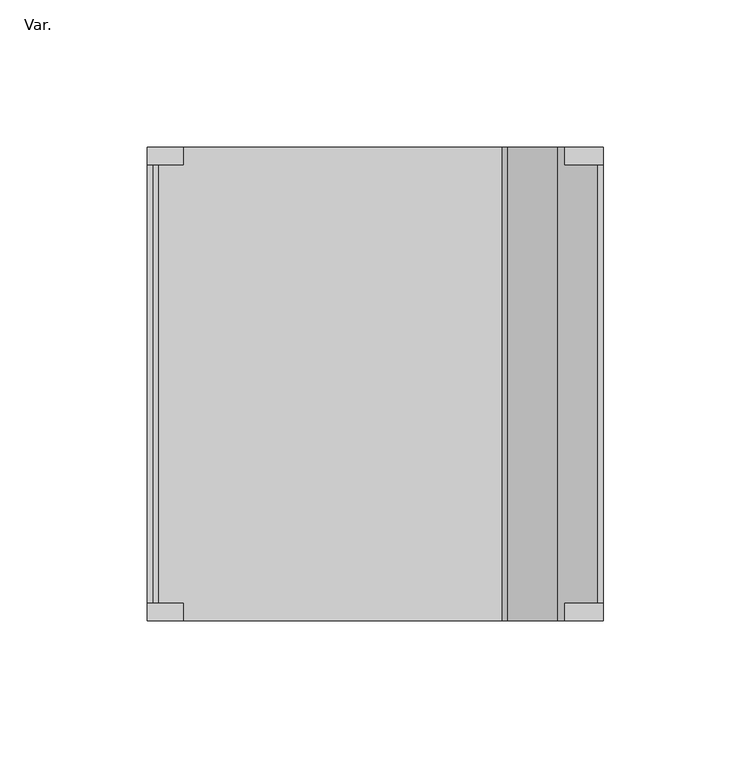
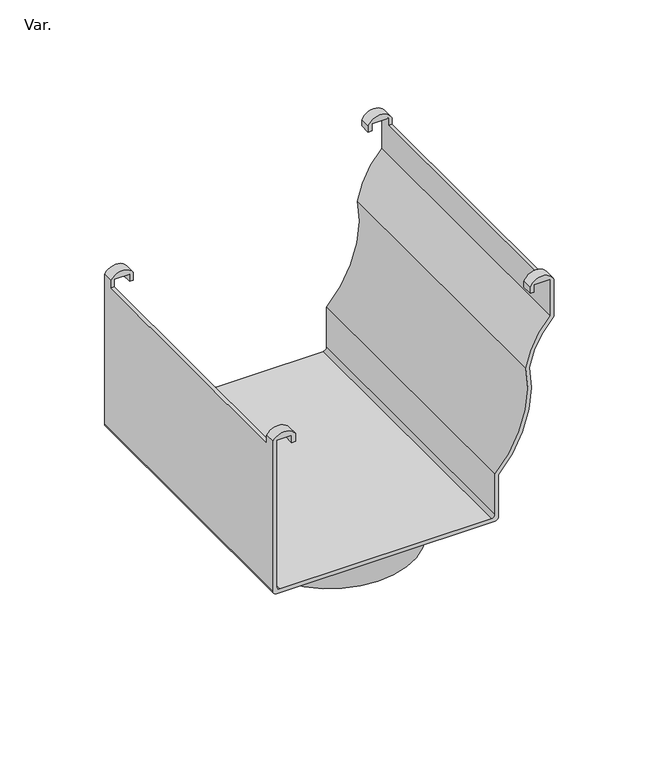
"""IFC4 building model written with IfcOpenShell, lengths in millimetres: pipe fitting geometry, AmancoWavin_Unionesdetubería_CanalesyBajantesZ_NoUsarBoquillaRedondaColonial : Var.."""

from ifc_helpers import new_model, si_unit, point, frame, frame_2d, origin, place, context, project, spatial, polyline, circle_curve, trimmed, segment, composite_curve, outline, extrude, source, transform, mapped, element, save
from ifc_brep_helpers import plane_surface, cylinder_surface, revolved_surface, advanced_brep


def var_2d040be0(model_context):
    return source(origin(), model_context, "Body", "SolidModel", [
        advanced_brep(
        [(-75.6, 24.0, 1.9878921), (-75.6, 24.0, 87.3360329), (-67.2332146, 24.0, 87.3360329), (-67.2332146, 24.0, 83.1375), (-65.2131805, 24.0, 83.1375), (-65.2131805, 24.0, 87.7283195), (-77.5570947, 24.0, 87.4142443), (-77.5570947, 24.0, 0.0034652), (-75.5894136, 24.0, -1.9642158), (44.9967752, 24.0, -1.9642158), (46.9693639, 24.0, 0.0083729), (46.9693639, 24.0, 24.4356482), (63.9675595, 24.0, 81.1220171), (77.5463431, 24.0, 106.1564886), (77.5463431, 24.0, 127.7397179), (64.4599451, 24.0, 127.3725563), (64.4599451, 24.0, 124.075), (66.4799725, 24.0, 124.075), (66.4799725, 24.0, 128.2481196), (75.6, 24.0, 128.2481196), (75.6, 24.0, 107.0001189), (61.9715873, 24.0, 81.1107714), (45.0, 24.0, 25.2323567), (45.0, 24.0, 1.9878921), (43.02, 24.0, 0.0078921), (-73.62, 24.0, 0.0078921), (-75.6, 185.0, 1.9878921), (-73.62, 185.0, 0.0078921), (43.02, 185.0, 0.0078921), (45.0, 185.0, 1.9878921), (45.0, 185.0, 25.2323567), (61.9715873, 185.0, 81.1107714), (75.6, 185.0, 107.0001189), (75.6, 185.0, 128.2481196), (66.4799725, 185.0, 128.2481196), (66.4799725, 185.0, 124.075), (64.4599451, 185.0, 124.075), (64.4599451, 185.0, 127.3725563), (77.5463431, 185.0, 127.7397179), (77.5463431, 185.0, 106.1564886), (63.9675595, 185.0, 81.1220171), (46.9693639, 185.0, 24.4356482), (46.9693639, 185.0, 0.0083729), (44.9967752, 185.0, -1.9642158), (-75.5894136, 185.0, -1.9642158), (-77.5570947, 185.0, 0.0034652), (-77.5570947, 185.0, 87.4142443), (-65.2131805, 185.0, 87.7283195), (-65.2131805, 185.0, 83.1375), (-67.2332146, 185.0, 83.1375), (-67.2332146, 185.0, 87.3360329), (-75.6, 185.0, 87.3360329), (-77.5570947, 30.0, 87.4142443), (-77.5570947, 30.0, 82.825), (-77.5570947, 179.0, 82.825), (-77.5570947, 179.0, 87.4142443), (77.5463431, 179.0, 127.7397179), (77.5463431, 179.0, 124.075), (77.5463431, 30.0, 124.075), (77.5463431, 30.0, 127.7397179), (75.6, 30.0, 128.2481196), (75.6, 30.0, 124.075), (75.6, 179.0, 124.075), (75.6, 179.0, 128.2481196), (-75.6, 179.0, 87.3360329), (-75.6, 179.0, 82.825), (-75.6, 30.0, 82.825), (-75.6, 30.0, 87.3360329), (-67.2332146, 30.0, 87.3360329), (-67.2332146, 179.0, 87.3360329), (-67.2332146, 30.0, 83.1375), (-67.2332146, 179.0, 83.1375), (-65.2131805, 30.0, 83.1375), (-65.2131805, 179.0, 83.1375), (-65.2131805, 30.0, 87.7283195), (-65.2131805, 179.0, 87.7283195), (64.4599451, 30.0, 127.3725563), (64.4599451, 30.0, 124.075), (64.4599451, 179.0, 124.075), (64.4599451, 179.0, 127.3725563), (66.4799725, 30.0, 124.075), (66.4799725, 179.0, 124.075), (66.4799725, 30.0, 128.2481196), (66.4799725, 179.0, 128.2481196)],
        [
            (0, 1),
            (1, 2),
            (2, 3),
            (3, 4),
            (4, 5),
            (5, 6, circle_curve(frame((-71.2838661, 24.0, 83.5910664), z_axis=(0.0, -1.0, 0.0), x_axis=(1.0, 0.0, 0.0)), 7.3464336)),
            (6, 7),
            (7, 8, circle_curve(frame((-75.5894136, 24.0, 0.0034652), z_axis=(0.0, -1.0, 0.0), x_axis=(1.0, 0.0, 0.0)), 1.967681)),
            (8, 9),
            (9, 10, circle_curve(frame((44.9967752, 24.0, 0.0083729), z_axis=(0.0, -1.0, 0.0), x_axis=(1.0, 0.0, 0.0)), 1.9725887)),
            (10, 11),
            (11, 12, circle_curve(frame((-0.2541378, 24.0, 69.4880285), z_axis=(0.0, -1.0, 0.0), x_axis=(1.0, 0.0, 0.0)), 65.2669602)),
            (12, 13, circle_curve(frame((109.823207, 24.0, 72.4495812), z_axis=(0.0, 1.0, 0.0), x_axis=(1.0, 0.0, 0.0)), 46.6685285)),
            (13, 14),
            (14, 15, circle_curve(frame((71.0817555, 24.0, 124.7542614), z_axis=(0.0, -1.0, 0.0), x_axis=(1.0, 0.0, 0.0)), 7.1206631)),
            (15, 16),
            (16, 17),
            (17, 18),
            (18, 19),
            (19, 20),
            (20, 21, circle_curve(frame((109.8360782, 24.0, 72.4461628), z_axis=(0.0, -1.0, 0.0), x_axis=(1.0, 0.0, 0.0)), 48.6424191)),
            (21, 22, circle_curve(frame((-0.2447036, 24.0, 69.4907783), z_axis=(0.0, 1.0, 0.0), x_axis=(1.0, 0.0, 0.0)), 63.2921092)),
            (22, 23),
            (23, 24, circle_curve(frame((43.02, 24.0, 1.9878921), z_axis=(0.0, 1.0, 0.0), x_axis=(1.0, 0.0, 0.0)), 1.98)),
            (24, 25),
            (25, 0, circle_curve(frame((-73.62, 24.0, 1.9878921), z_axis=(0.0, 1.0, 0.0), x_axis=(1.0, 0.0, 0.0)), 1.98)),
            (26, 27, circle_curve(frame((-73.62, 185.0, 1.9878921), z_axis=(0.0, -1.0, 0.0), x_axis=(1.0, 0.0, 0.0)), 1.98)),
            (27, 28),
            (28, 29, circle_curve(frame((43.02, 185.0, 1.9878921), z_axis=(0.0, -1.0, 0.0), x_axis=(1.0, 0.0, 0.0)), 1.98)),
            (29, 30),
            (30, 31, circle_curve(frame((-0.2447036, 185.0, 69.4907783), z_axis=(0.0, -1.0, 0.0), x_axis=(1.0, 0.0, 0.0)), 63.2921092)),
            (31, 32, circle_curve(frame((109.8360782, 185.0, 72.4461628), z_axis=(0.0, 1.0, 0.0), x_axis=(1.0, 0.0, 0.0)), 48.6424191)),
            (32, 33),
            (33, 34),
            (34, 35),
            (35, 36),
            (36, 37),
            (37, 38, circle_curve(frame((71.0817555, 185.0, 124.7542614), z_axis=(0.0, 1.0, 0.0), x_axis=(1.0, 0.0, 0.0)), 7.1206631)),
            (38, 39),
            (39, 40, circle_curve(frame((109.823207, 185.0, 72.4495812), z_axis=(0.0, -1.0, 0.0), x_axis=(1.0, 0.0, 0.0)), 46.6685285)),
            (40, 41, circle_curve(frame((-0.2541378, 185.0, 69.4880285), z_axis=(0.0, 1.0, 0.0), x_axis=(1.0, 0.0, 0.0)), 65.2669602)),
            (41, 42),
            (42, 43, circle_curve(frame((44.9967752, 185.0, 0.0083729), z_axis=(0.0, 1.0, 0.0), x_axis=(1.0, 0.0, 0.0)), 1.9725887)),
            (43, 44),
            (44, 45, circle_curve(frame((-75.5894136, 185.0, 0.0034652), z_axis=(0.0, 1.0, 0.0), x_axis=(1.0, 0.0, 0.0)), 1.967681)),
            (45, 46),
            (46, 47, circle_curve(frame((-71.2838661, 185.0, 83.5910664), z_axis=(0.0, 1.0, 0.0), x_axis=(1.0, 0.0, 0.0)), 7.3464336)),
            (47, 48),
            (48, 49),
            (49, 50),
            (50, 51),
            (51, 26),
            (6, 52),
            (52, 53),
            (53, 54),
            (54, 55),
            (55, 46),
            (45, 7),
            (8, 44),
            (43, 9),
            (13, 39),
            (38, 56),
            (56, 57),
            (57, 58),
            (58, 59),
            (59, 14),
            (19, 60),
            (60, 61),
            (61, 62),
            (62, 63),
            (63, 33),
            (32, 20),
            (24, 28),
            (27, 25),
            (0, 26),
            (51, 64),
            (64, 65),
            (65, 66),
            (66, 67),
            (67, 1),
            (67, 68),
            (68, 2),
            (50, 69),
            (69, 64),
            (68, 70),
            (70, 3),
            (49, 71),
            (71, 69),
            (70, 72),
            (72, 4),
            (48, 73),
            (73, 71),
            (72, 74),
            (74, 5),
            (47, 75),
            (75, 73),
            (74, 52, circle_curve(frame((-71.2838661, 30.0, 83.5910664), z_axis=(0.0, -1.0, 0.0), x_axis=(1.0, 0.0, 0.0)), 7.3464336)),
            (55, 75, circle_curve(frame((-71.2838661, 179.0, 83.5910664), z_axis=(0.0, 1.0, 0.0), x_axis=(1.0, 0.0, 0.0)), 7.3464336)),
            (15, 76),
            (76, 77),
            (77, 16),
            (36, 78),
            (78, 79),
            (79, 37),
            (77, 80),
            (80, 17),
            (35, 81),
            (81, 78),
            (80, 82),
            (82, 18),
            (34, 83),
            (83, 81),
            (82, 60),
            (63, 83),
            (10, 42),
            (41, 11),
            (40, 12),
            (22, 30),
            (29, 23),
            (31, 21),
            (65, 54),
            (53, 66),
            (57, 62),
            (61, 58),
            (56, 79, circle_curve(frame((71.0817555, 179.0, 124.7542614), z_axis=(0.0, -1.0, 0.0), x_axis=(1.0, 0.0, 0.0)), 7.1206631)),
            (76, 59, circle_curve(frame((71.0817555, 30.0, 124.7542614), z_axis=(0.0, 1.0, 0.0), x_axis=(1.0, 0.0, 0.0)), 7.1206631)),
        ],
        [
            plane_surface(frame((-75.6, 24.0, 85.7735329), z_axis=(0.0, -1.0, 0.0), x_axis=(0.0, 0.0, 1.0))),
            plane_surface(frame((-75.6, 185.0, 85.7735329), z_axis=(0.0, 1.0, 0.0), x_axis=(0.0, 0.0, -1.0))),
            plane_surface(frame((-77.5570947, 24.0, 87.4142443), z_axis=(-1.0, 0.0, 0.0), x_axis=(0.0, 1.0, 0.0))),
            plane_surface(frame((-75.5894136, 24.0, -1.9642158), z_axis=(0.0, 0.0, -1.0), x_axis=(0.0, 1.0, 0.0))),
            plane_surface(frame((77.5463431, 24.0, 106.1564886), z_axis=(1.0, 0.0, 0.0), x_axis=(0.0, 1.0, 0.0))),
            plane_surface(frame((75.6, 24.0, 128.2481196), z_axis=(-1.0, 0.0, 0.0), x_axis=(0.0, 1.0, 0.0))),
            plane_surface(frame((43.02, 24.0, 0.0078921), z_axis=(0.0, 0.0, 1.0), x_axis=(0.0, 1.0, 0.0))),
            plane_surface(frame((-75.6, 24.0, 1.9878921), z_axis=(1.0, 0.0, 0.0), x_axis=(0.0, 1.0, 0.0))),
            plane_surface(frame((-75.6, 24.0, 87.3360329), z_axis=(0.0, 0.0, -1.0), x_axis=(0.0, 1.0, 0.0))),
            plane_surface(frame((-67.2332146, 24.0, 87.3360329), z_axis=(-1.0, 0.0, 0.0), x_axis=(0.0, 1.0, 0.0))),
            plane_surface(frame((-67.2332146, 24.0, 83.1375), z_axis=(0.0, 0.0, -1.0), x_axis=(0.0, 1.0, 0.0))),
            plane_surface(frame((-65.2131805, 24.0, 83.1375), z_axis=(1.0, 0.0, 0.0), x_axis=(0.0, 1.0, 0.0))),
            cylinder_surface(frame((-71.2838661, 185.0, 83.5910664), z_axis=(0.0, -1.0, 0.0), x_axis=(1.0, 0.0, 0.0)), 7.3464336),
            plane_surface(frame((64.4599451, 24.0, 127.3725563), z_axis=(-1.0, 0.0, 0.0), x_axis=(0.0, 1.0, 0.0))),
            plane_surface(frame((64.4599451, 24.0, 124.075), z_axis=(0.0, 0.0, -1.0), x_axis=(0.0, 1.0, 0.0))),
            plane_surface(frame((66.4799725, 24.0, 124.075), z_axis=(1.0, 0.0, 0.0), x_axis=(0.0, 1.0, 0.0))),
            plane_surface(frame((66.4799725, 24.0, 128.2481196), z_axis=(0.0, 0.0, -1.0), x_axis=(0.0, 1.0, 0.0))),
            plane_surface(frame((46.9693639, 24.0, 0.0083729), z_axis=(1.0, 0.0, 0.0), x_axis=(0.0, 1.0, 0.0))),
            cylinder_surface(frame((-0.2541378, 185.0, 69.4880285), z_axis=(0.0, -1.0, 0.0), x_axis=(1.0, 0.0, 0.0)), 65.2669602),
            plane_surface(frame((45.0, 24.0, 25.2323567), z_axis=(-1.0, 0.0, 0.0), x_axis=(0.0, 1.0, 0.0))),
            revolved_surface(polyline([(156.4917355, 185.0, 72.4495812), (156.4917355, 24.0, 72.4495812)]), (109.823207, 185.0, 72.4495812), (0.0, 1.0, 0.0)),
            cylinder_surface(frame((109.8360782, 185.0, 72.4461628), z_axis=(0.0, -1.0, 0.0), x_axis=(1.0, 0.0, 0.0)), 48.6424191),
            revolved_surface(polyline([(63.0474056, 185.0, 69.4907783), (63.0474056, 24.0, 69.4907783)]), (-0.2447036, 185.0, 69.4907783), (0.0, 1.0, 0.0)),
            cylinder_surface(frame((-75.5894136, 185.0, 0.0034652), z_axis=(0.0, -1.0, 0.0), x_axis=(1.0, 0.0, 0.0)), 1.967681),
            cylinder_surface(frame((44.9967752, 185.0, 0.0083729), z_axis=(0.0, -1.0, 0.0), x_axis=(1.0, 0.0, 0.0)), 1.9725887),
            revolved_surface(polyline([(45.0, 185.0, 1.9878921), (45.0, 24.0, 1.9878921)]), (43.02, 185.0, 1.9878921), (0.0, 1.0, 0.0)),
            revolved_surface(polyline([(-71.64, 185.0, 1.9878921), (-71.64, 24.0, 1.9878921)]), (-73.62, 185.0, 1.9878921), (0.0, 1.0, 0.0)),
            plane_surface(frame((-75.6, 179.0, 82.825), z_axis=(0.0, 0.0, 1.0), x_axis=(1.0, 0.0, 0.0))),
            plane_surface(frame((-65.2131805, 179.0, 91.0438047), z_axis=(0.0, -1.0, 0.0), x_axis=(0.0, 0.0, -1.0))),
            plane_surface(frame((-77.5570947, 30.0, 91.0438047), z_axis=(0.0, 1.0, 0.0), x_axis=(0.0, 0.0, -1.0))),
            plane_surface(frame((66.48, 179.0, 124.075), z_axis=(0.0, 0.0, 1.0), x_axis=(1.0, 0.0, 0.0))),
            plane_surface(frame((77.5463431, 179.0, 132.2959788), z_axis=(0.0, -1.0, 0.0), x_axis=(0.0, 0.0, -1.0))),
            plane_surface(frame((64.4599451, 30.0, 132.2959788), z_axis=(0.0, 1.0, 0.0), x_axis=(0.0, 0.0, -1.0))),
            cylinder_surface(frame((71.0817555, 185.0, 124.7542614), z_axis=(0.0, -1.0, 0.0), x_axis=(1.0, 0.0, 0.0)), 7.1206631),
        ],
        [
            (0, [[1, 2, 3, 4, 5, 6, 7, 8, 9, 10, 11, 12, 13, 14, 15, 16, 17, 18, 19, 20, 21, 22, 23, 24, 25, 26]]),
            (1, [[27, 28, 29, 30, 31, 32, 33, 34, 35, 36, 37, 38, 39, 40, 41, 42, 43, 44, 45, 46, 47, 48, 49, 50, 51, 52]]),
            (2, [[-7, 53, 54, 55, 56, 57, -46, 58]]),
            (3, [[-9, 59, -44, 60]]),
            (4, [[-14, 61, -39, 62, 63, 64, 65, 66]]),
            (5, [[-20, 67, 68, 69, 70, 71, -33, 72]]),
            (6, [[-25, 73, -28, 74]]),
            (7, [[-1, 75, -52, 76, 77, 78, 79, 80]]),
            (8, [[-2, -80, 81, 82]]),
            (8, [[-51, 83, 84, -76]]),
            (9, [[-3, -82, 85, 86]]),
            (9, [[-50, 87, 88, -83]]),
            (10, [[-4, -86, 89, 90]]),
            (10, [[-49, 91, 92, -87]]),
            (11, [[-5, -90, 93, 94]]),
            (11, [[-48, 95, 96, -91]]),
            (12, [[-6, -94, 97, -53]]),
            (12, [[-47, -57, 98, -95]]),
            (13, [[-16, 99, 100, 101]]),
            (13, [[-37, 102, 103, 104]]),
            (14, [[-17, -101, 105, 106]]),
            (14, [[-36, 107, 108, -102]]),
            (15, [[-18, -106, 109, 110]]),
            (15, [[-35, 111, 112, -107]]),
            (16, [[-19, -110, 113, -67]]),
            (16, [[-34, -71, 114, -111]]),
            (17, [[-11, 115, -42, 116]]),
            (18, [[-12, -116, -41, 117]]),
            (19, [[-23, 118, -30, 119]]),
            (20, [[-13, -117, -40, -61]]),
            (21, [[-21, -72, -32, 120]]),
            (22, [[-22, -120, -31, -118]]),
            (23, [[-8, -58, -45, -59]]),
            (24, [[-10, -60, -43, -115]]),
            (25, [[-24, -119, -29, -73]]),
            (26, [[-26, -74, -27, -75]]),
            (27, [[121, -55, 122, -78]]),
            (28, [[-121, -77, -84, -88, -92, -96, -98, -56]]),
            (29, [[-122, -54, -97, -93, -89, -85, -81, -79]]),
            (30, [[123, -69, 124, -64]]),
            (31, [[-123, -63, 125, -103, -108, -112, -114, -70]]),
            (32, [[-124, -68, -113, -109, -105, -100, 126, -65]]),
            (33, [[-15, -66, -126, -99]]),
            (33, [[-38, -104, -125, -62]]),
        ],
    ),
        extrude(outline(composite_curve([segment(trimmed(circle_curve(frame_2d((0.0, 104.5)), 46.35), [point((-46.35, 104.5))], [point((46.35, 104.5))], False, "CARTESIAN"), True, "CONTINUOUS"), segment(trimmed(circle_curve(frame_2d((0.0, 104.5)), 46.35), [point((46.35, 104.5))], [point((-46.35, 104.5))], False, "CARTESIAN"), True, "CONTINUOUS")], self_intersect=False), holes=[composite_curve([segment(trimmed(circle_curve(frame_2d((0.0, 104.5)), 44.35), [point((-44.35, 104.5))], [point((44.35, 104.5))], True, "CARTESIAN"), True, "CONTINUOUS"), segment(trimmed(circle_curve(frame_2d((0.0, 104.5)), 44.35), [point((44.35, 104.5))], [point((-44.35, 104.5))], True, "CARTESIAN"), True, "CONTINUOUS")], self_intersect=False)]), frame((0.0, 0.0, -41.98), z_axis=(0.0, 0.0, 1.0), x_axis=(1.0, 0.0, 0.0)), (0.0, 0.0, 1.0), 40.0157842),
    ])


if __name__ == "__main__":
    model = new_model("IFC4")
    model_context = context("Model", 3, world=origin())
    ifc_project = project(units=[si_unit("LENGTHUNIT", "METRE", prefix="MILLI")], contexts=[model_context])
    site = spatial("IfcSite", under=ifc_project)
    building = spatial("IfcBuilding", under=site)
    placement = place(None, origin())
    var_shape = var_2d040be0(model_context)
    element("IfcPipeFitting", 1, ObjectType="AmancoWavin_Unionesdetubería_CanalesyBajantesZ_NoUsarBoquillaRedondaColonial : Var.", at=placement, inside=building, context=model_context, shape_type="MappedRepresentation", body=[
        mapped(var_shape, transform((0.0, 0.0, 0.0), x_axis=(1.0, 0.0, 0.0), y_axis=(0.0, 1.0, 0.0), z_axis=(0.0, 0.0, 1.0))),
    ])
    save(model, "model.ifc")
